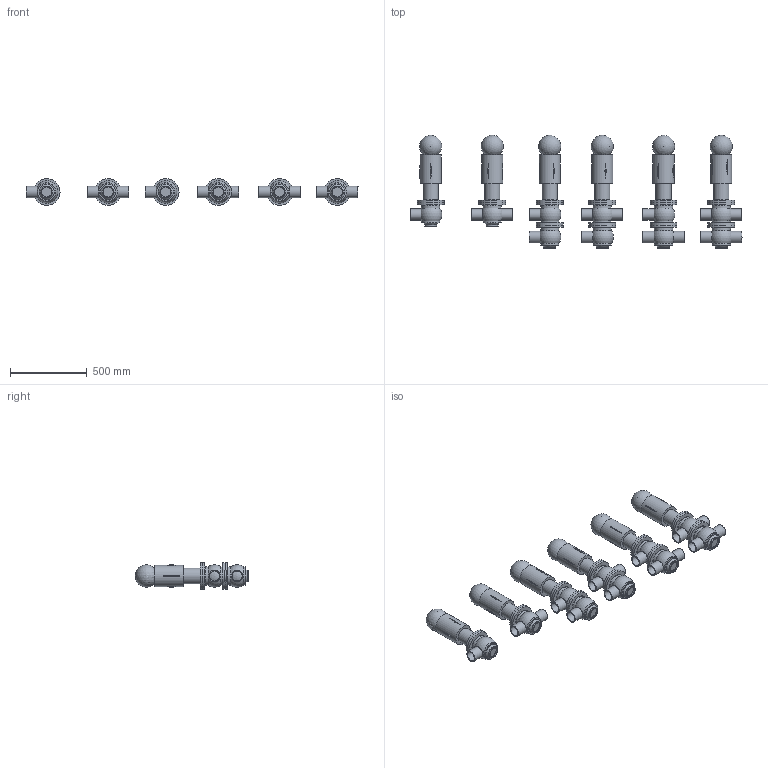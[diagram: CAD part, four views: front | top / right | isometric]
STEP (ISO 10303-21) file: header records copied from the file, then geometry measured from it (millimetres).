
FILE_DESCRIPTION(/* description */ (''),/* implementation_level */ '2;1');
FILE_NAME(/* name */ 'C:\Users\marz-m\Desktop\PDF\BBZQ 3D STEP\BBZQ-DN76.1-CIL.134.stp',/* time_stamp */ '2018-04-13T15:21:27+02:00',/* author */ ('marz-m'),/* organization */ (''),/* preprocessor_version */ 'ST-DEVELOPER v17',/* originating_system */ 'Autodesk Inventor 2018',/* authorisation */ '');
FILE_SCHEMA (('AUTOMOTIVE_DESIGN { 1 0 10303 214 3 1 1 }'));
Length unit declared in the file: millimetre
Products named in the file (8): BBZQ-DN76.1-CIL.134; assemblaggio dn80 per cil 108-156; CIL134; SAGOMA-GIOTTO-; COR-INF-L-BBZQ-DN76.1; COR-SUP-L-BBZQ-DN76.1; COR-SUP-T-BBZQ-DN76.1; COR-INF-T-BBZQ-DN76.1
Assembly tree (28 placements, depth 2):
  BBZQ-DN76.1-CIL.134
    assemblaggio dn80 per cil 108-156  x6
    COR-INF-L-BBZQ-DN76.1  x3
    COR-INF-T-BBZQ-DN76.1  x3
    COR-SUP-L-BBZQ-DN76.1  x2
    COR-SUP-T-BBZQ-DN76.1  x2
    CIL134  x6
    SAGOMA-GIOTTO-  x6
Bounding box: 2166.8 x 739.47 x 174 mm (x, y, z)
Volume: 56525472.1 mm3; surface area: 3336875.1 mm2
Topology: 28 solids, 28 shells, 422 faces, 1090 edges, 776 vertices
Faces by surface type: plane 157, cylinder 106, torus 74, cone 54, sphere 31
Full cylindrical faces by diameter (mm): 20 x12, 66.1 x21, 76.1 x21, 100 x6, 120 x20, 139 x6, 174 x20
Entity records: 4280 total; most frequent: CARTESIAN_POINT 920, DIRECTION 745, ORIENTED_EDGE 570, AXIS2_PLACEMENT_3D 353, EDGE_CURVE 285, VERTEX_POINT 208, CIRCLE 194, EDGE_LOOP 143
